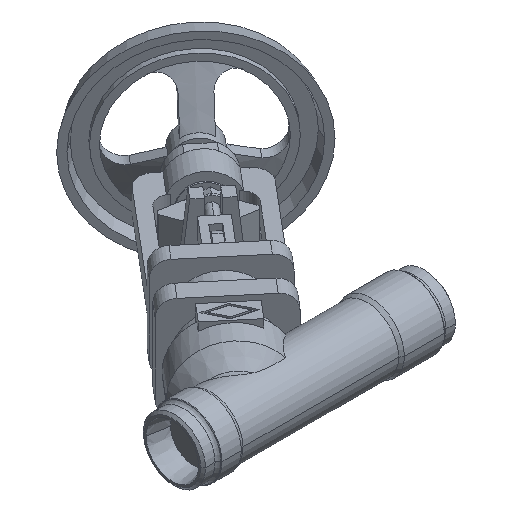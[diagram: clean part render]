
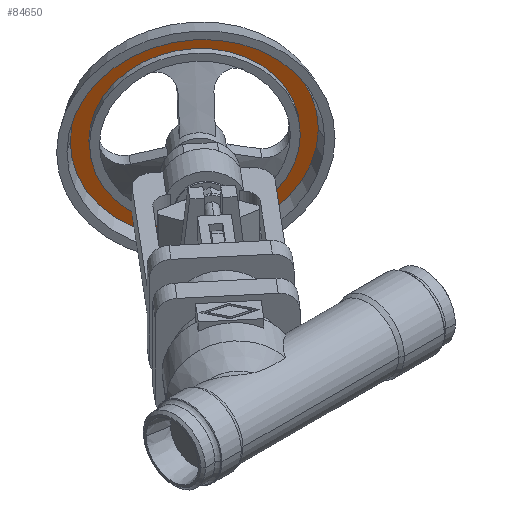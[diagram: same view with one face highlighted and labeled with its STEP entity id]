
A CAD part, isometric view. The second image highlights one B-rep face of the part: STEP entity #84650.
In plain terms, the highlighted planar face has unit normal (-0.643, -0.766, 0).
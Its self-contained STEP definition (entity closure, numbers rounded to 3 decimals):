
#84100=CARTESIAN_POINT('',(249.572,146.108,
0.));
#84110=VERTEX_POINT('',#84100);
#84190=CARTESIAN_POINT('',(153.951,226.343,0.));
#84200=VERTEX_POINT('',#84190);
#84230=CARTESIAN_POINT('',(201.762,186.225,0.));
#84240=DIRECTION('',(0.643,0.766,0.));
#84250=DIRECTION('',(-0.766,0.643,
0.));
#84260=AXIS2_PLACEMENT_3D('',#84230,#84240,#84250);
#84270=CIRCLE('',#84260,62.412);
#84280=EDGE_CURVE('',#84110,#84200,#84270,.T.);
#84400=CARTESIAN_POINT('',(157.556,223.318,
0.));
#84410=DIRECTION('',(-0.643,-0.766,0.));
#84420=DIRECTION('',(0.766,-0.643,
0.));
#84430=AXIS2_PLACEMENT_3D('',#84400,#84410,#84420);
#84440=PLANE('',#84430);
#84450=EDGE_CURVE('',#84200,#84110,#84270,.T.);
#84460=ORIENTED_EDGE('',*,*,#84450,.F.);
#84470=ORIENTED_EDGE('',*,*,#84280,.F.);
#84480=EDGE_LOOP('',(#84470,#84460));
#84490=FACE_OUTER_BOUND('',#84480,.T.);
#84500=CARTESIAN_POINT('',(201.762,186.225,0.));
#84510=DIRECTION('',(0.643,0.766,
0.));
#84520=DIRECTION('',(-0.766,0.643,
0.));
#84530=AXIS2_PLACEMENT_3D('',#84500,#84510,#84520);
#84540=CIRCLE('',#84530,53.);
#84550=CARTESIAN_POINT('',(161.161,220.293,
0.));
#84560=VERTEX_POINT('',#84550);
#84570=CARTESIAN_POINT('',(242.362,152.158,
0.));
#84580=VERTEX_POINT('',#84570);
#84590=EDGE_CURVE('',#84560,#84580,#84540,.T.);
#84600=ORIENTED_EDGE('',*,*,#84590,.T.);
#84610=EDGE_CURVE('',#84580,#84560,#84540,.T.);
#84620=ORIENTED_EDGE('',*,*,#84610,.T.);
#84630=EDGE_LOOP('',(#84620,#84600));
#84640=FACE_BOUND('',#84630,.T.);
#84650=ADVANCED_FACE('',(#84490,#84640),#84440,.T.);
